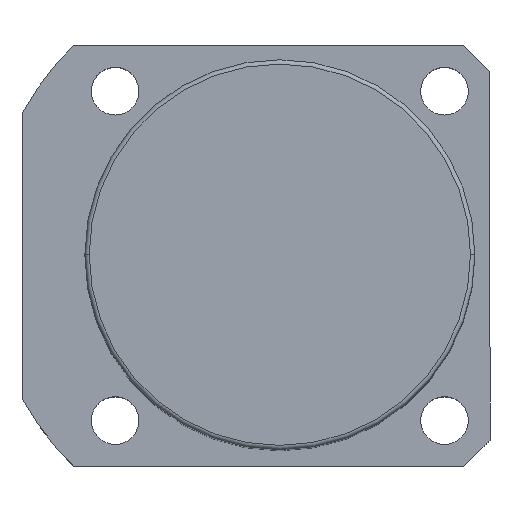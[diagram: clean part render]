
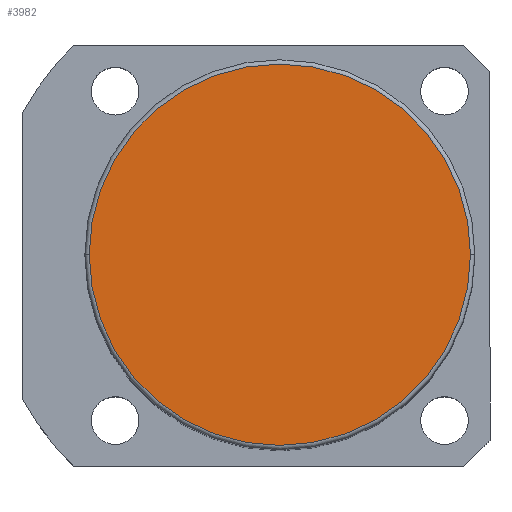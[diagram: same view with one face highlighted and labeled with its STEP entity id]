
A CAD part, top view. The second image highlights one B-rep face of the part: STEP entity #3982.
In plain terms, the highlighted planar face has unit normal (0, 0, 1).
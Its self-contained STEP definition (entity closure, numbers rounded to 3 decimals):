
#20 = AXIS2_PLACEMENT_3D ( 'NONE', #3992, #6193, #5669 ) ;
#69 = DIRECTION ( 'NONE',  ( 0., 0., 1. ) ) ;
#238 = CIRCLE ( 'NONE', #3847, 44. ) ;
#327 = CARTESIAN_POINT ( 'NONE',  ( 0., 0., 166.5 ) ) ;
#432 = EDGE_LOOP ( 'NONE', ( #3904, #6683 ) ) ;
#818 = CARTESIAN_POINT ( 'NONE',  ( 44., 0., 166.5 ) ) ;
#889 = DIRECTION ( 'NONE',  ( 1., 0., 0. ) ) ;
#1513 = AXIS2_PLACEMENT_3D ( 'NONE', #327, #4175, #889 ) ;
#1924 = FACE_OUTER_BOUND ( 'NONE', #432, .T. ) ;
#2880 = CARTESIAN_POINT ( 'NONE',  ( -44., 0., 166.5 ) ) ;
#3357 = CARTESIAN_POINT ( 'NONE',  ( 0., 0., 166.5 ) ) ;
#3396 = VERTEX_POINT ( 'NONE', #818 ) ;
#3798 = CIRCLE ( 'NONE', #1513, 44. ) ;
#3832 = EDGE_CURVE ( 'NONE', #6556, #3396, #238, .T. ) ;
#3847 = AXIS2_PLACEMENT_3D ( 'NONE', #3357, #69, #3921 ) ;
#3904 = ORIENTED_EDGE ( 'NONE', *, *, #4148, .T. ) ;
#3921 = DIRECTION ( 'NONE',  ( 1., 0., 0. ) ) ;
#3982 = ADVANCED_FACE ( 'NONE', ( #1924 ), #5116, .T. ) ;
#3992 = CARTESIAN_POINT ( 'NONE',  ( 0., 0., 166.5 ) ) ;
#4148 = EDGE_CURVE ( 'NONE', #3396, #6556, #3798, .T. ) ;
#4175 = DIRECTION ( 'NONE',  ( 0., 0., 1. ) ) ;
#5116 = PLANE ( 'NONE',  #20 ) ;
#5669 = DIRECTION ( 'NONE',  ( 1., 0., 0. ) ) ;
#6193 = DIRECTION ( 'NONE',  ( 0., 0., 1. ) ) ;
#6556 = VERTEX_POINT ( 'NONE', #2880 ) ;
#6683 = ORIENTED_EDGE ( 'NONE', *, *, #3832, .T. ) ;
